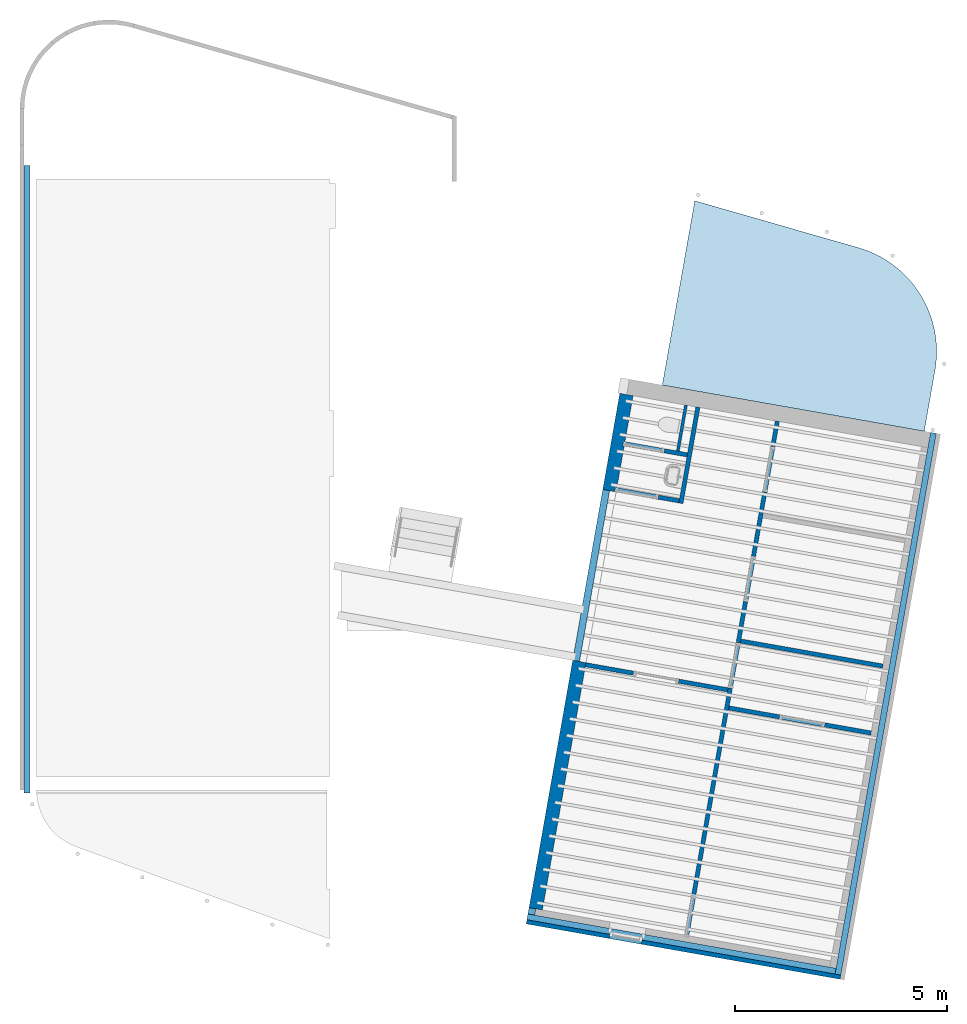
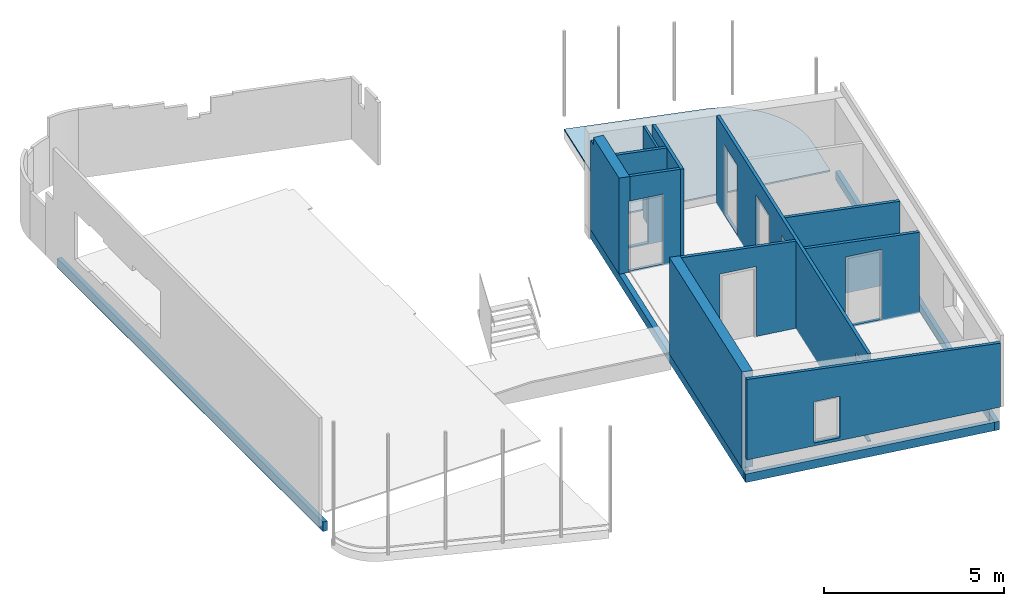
# One storey, part 3 of 7: 15 walls, 1 slab, 15 openings.
"""IFC2X3 building model written with IfcOpenShell, lengths in millimetres."""

import ifcopenshell
import ifcopenshell.guid

model = None  # the IFC model being written
_history = None  # IfcOwnerHistory: only IFC2X3 demands one
_inside = {}  # id of a spatial element -> (the spatial element, [elements in it])
_under = {}  # id of a project, library or spatial element -> (it, [spatial elements below it])
_declared = {}  # id of a project -> (the project, [libraries it declares])
_typed = {}  # id of a type object -> (the type object, [elements of that type])
_made_of = {}  # id of a material, layer set ... -> (it, [elements and type objects made of it])


def new_model(schema):
    """Start an empty IFC model of exactly this schema.

    Asked for "IFC4X3", IfcOpenShell would pick the latest addendum, in which some entities
    have other attributes; the version numbers below select the first issue.
    IFC2X3 requires an IfcOwnerHistory on every rooted entity: one is made here for all.
    """
    global model, _history
    if schema == "IFC4X3":
        model = ifcopenshell.file(schema_version=(4, 3, 0, 0))
    else:
        model = ifcopenshell.file(schema=schema)
    _inside.clear()
    _under.clear()
    _declared.clear()
    _typed.clear()
    _made_of.clear()
    _history = None
    if model.schema == "IFC2X3":
        org = make("IfcOrganization", Name="unknown")
        user = make(
            "IfcPersonAndOrganization",
            ThePerson=make("IfcPerson", FamilyName="unknown"),
            TheOrganization=org,
        )
        app = make(
            "IfcApplication",
            ApplicationDeveloper=org,
            Version="unknown",
            ApplicationFullName="unknown",
            ApplicationIdentifier="unknown",
        )
        _history = make(
            "IfcOwnerHistory",
            OwningUser=user,
            OwningApplication=app,
            ChangeAction="ADDED",
            CreationDate=0,
        )
    return model


def make(cls, **values):
    """One entity of the class cls with the attributes given. An attribute that is None is left unset."""
    return model.create_entity(
        cls, **{name: value for name, value in values.items() if value is not None}
    )


def entity(cls, *values):
    """Any entity or typed value of the class cls, its attributes in the order of the schema. None: left unset."""
    e = model.create_entity(cls)
    for i, value in enumerate(values):
        if value is not None:
            e[i] = value
    return e


def rooted(cls, **values):
    """An entity with a GlobalId (a new one), such as an element, a storey or a relation."""
    return make(cls, GlobalId=ifcopenshell.guid.new(), OwnerHistory=_history, **values)


def si_unit(unit_type, name, prefix=None):
    """IfcSIUnit, for example si_unit("LENGTHUNIT", "METRE", prefix="MILLI")."""
    return make("IfcSIUnit", UnitType=unit_type, Prefix=prefix, Name=name)


def converted_unit(unit_type, name, factor, base, dimensions=None, offset=None):
    """IfcConversionBasedUnit, such as the inch: factor (a typed value) times the base unit."""
    return make(
        "IfcConversionBasedUnit"
        if offset is None
        else "IfcConversionBasedUnitWithOffset",
        ConversionOffset=offset,
        Dimensions=None
        if dimensions is None
        else entity("IfcDimensionalExponents", *dimensions),
        UnitType=unit_type,
        Name=name,
        ConversionFactor=make(
            "IfcMeasureWithUnit", ValueComponent=factor, UnitComponent=base
        ),
    )


def derived_unit(unit_type, elements):
    """IfcDerivedUnit: a product of units, each with its exponent."""
    return make(
        "IfcDerivedUnit",
        Elements=[
            make("IfcDerivedUnitElement", Unit=unit, Exponent=power)
            for unit, power in elements
        ],
        UnitType=unit_type,
    )


def assignment(units):
    """IfcUnitAssignment: the units of a project."""
    return None if units is None else make("IfcUnitAssignment", Units=units)


def point(xyz):
    """IfcCartesianPoint."""
    return None if xyz is None else make("IfcCartesianPoint", Coordinates=xyz)


def direction(xyz):
    """IfcDirection."""
    return None if xyz is None else make("IfcDirection", DirectionRatios=xyz)


def frame(location, z_axis=None, x_axis=None):
    """IfcAxis2Placement3D, a coordinate frame: its origin and axes. An axis left out is left unset."""
    return make(
        "IfcAxis2Placement3D",
        Location=point(location),
        Axis=direction(z_axis),
        RefDirection=direction(x_axis),
    )


def frame_2d(location, x_axis=None):
    """IfcAxis2Placement2D, a coordinate frame in the plane: its origin and x axis."""
    return make(
        "IfcAxis2Placement2D", Location=point(location), RefDirection=direction(x_axis)
    )


def origin():
    """The frame at (0, 0, 0) with its axes left unset."""
    return frame((0.0, 0.0, 0.0))


def place(relative_to, where):
    """IfcLocalPlacement: puts the frame where relative to a parent placement (None: the world)."""
    return make(
        "IfcLocalPlacement", PlacementRelTo=relative_to, RelativePlacement=where
    )


def context(
    kind, dimensions, precision=None, world=None, true_north=None, identifier=None
):
    """IfcGeometricRepresentationContext, for example the 3D "Model" context."""
    return make(
        "IfcGeometricRepresentationContext",
        ContextIdentifier=identifier,
        ContextType=kind,
        CoordinateSpaceDimension=dimensions,
        Precision=precision,
        WorldCoordinateSystem=world,
        TrueNorth=true_north,
    )


def subcontext(parent, identifier, kind, view, scale=None):
    """IfcGeometricRepresentationSubContext, for example "Body" below "Model"."""
    return make(
        "IfcGeometricRepresentationSubContext",
        ContextIdentifier=identifier,
        ContextType=kind,
        ParentContext=parent,
        TargetScale=scale,
        TargetView=view,
    )


def project(units=None, contexts=None):
    """IfcProject with its units and contexts."""
    return rooted(
        "IfcProject",
        Name="project",
        RepresentationContexts=contexts,
        UnitsInContext=assignment(units),
    )


def spatial(cls, under=None, at=None, **own):
    """A site, building, storey or space (cls), placed at a placement, below another one or the project."""
    s = rooted(cls, ObjectPlacement=at, **own)
    if under is not None:
        _under.setdefault(under.id(), (under, []))[1].append(s)
    return s


def polyline(points):
    """IfcPolyline through the points."""
    return make("IfcPolyline", Points=[point(p) for p in points])


def circle_curve(where, radius):
    """IfcCircle in the frame where."""
    return make("IfcCircle", Position=where, Radius=radius)


def parameter(value):
    """IfcParameterValue: where a trimmed curve begins or ends, as a parameter of its basis curve."""
    return model.create_entity("IfcParameterValue", value)


def trimmed(basis, trim1, trim2, sense, master):
    """IfcTrimmedCurve: the piece of a basis curve between two trims."""
    return make(
        "IfcTrimmedCurve",
        BasisCurve=basis,
        Trim1=trim1,
        Trim2=trim2,
        SenseAgreement=sense,
        MasterRepresentation=master,
    )


def segment(curve, same_sense, transition):
    """IfcCompositeCurveSegment."""
    return make(
        "IfcCompositeCurveSegment",
        Transition=transition,
        SameSense=same_sense,
        ParentCurve=curve,
    )


def composite_curve(segments, self_intersect=None):
    """IfcCompositeCurve: segments joined end to end."""
    return make("IfcCompositeCurve", Segments=segments, SelfIntersect=self_intersect)


def profile(cls, at=None, kind="AREA", **sizes):
    """A parametric profile (cls). Its sizes go by their IFC names, for example OverallWidth=200.0."""
    return make(cls, ProfileType=kind, Position=at, **sizes)


def rectangle(**sizes):
    """IfcRectangleProfileDef."""
    return profile("IfcRectangleProfileDef", **sizes)


def outline(outer, holes=None, kind="AREA"):
    """IfcArbitraryClosedProfileDef: a profile drawn as a closed curve; with holes, ...WithVoids."""
    if holes is None:
        return make("IfcArbitraryClosedProfileDef", ProfileType=kind, OuterCurve=outer)
    return make(
        "IfcArbitraryProfileDefWithVoids",
        ProfileType=kind,
        OuterCurve=outer,
        InnerCurves=holes,
    )


def extrude(swept, where, along, depth):
    """IfcExtrudedAreaSolid: the profile swept, set in the frame where, extruded along a direction by depth."""
    return make(
        "IfcExtrudedAreaSolid",
        SweptArea=swept,
        Position=where,
        ExtrudedDirection=direction(along),
        Depth=depth,
    )


def clip(a, b, op="DIFFERENCE"):
    """IfcBooleanClippingResult: the solid a cut by the half space b."""
    return make(
        "IfcBooleanClippingResult", Operator=op, FirstOperand=a, SecondOperand=b
    )


def halfspace(plane, agree):
    """IfcHalfSpaceSolid: all space on one side of the plane z = 0 of the frame plane."""
    return make(
        "IfcHalfSpaceSolid",
        BaseSurface=make("IfcPlane", Position=plane),
        AgreementFlag=agree,
    )


def bounded_halfspace(plane, agree, where, boundary):
    """IfcPolygonalBoundedHalfSpace: a half space limited to a polygon's prism."""
    return make(
        "IfcPolygonalBoundedHalfSpace",
        BaseSurface=make("IfcPlane", Position=plane),
        AgreementFlag=agree,
        Position=where,
        PolygonalBoundary=boundary,
    )


def shape(context_of_items, identifier, shape_type, items):
    """IfcShapeRepresentation: the items that make up one representation, for example the "Body"."""
    return make(
        "IfcShapeRepresentation",
        ContextOfItems=context_of_items,
        RepresentationIdentifier=identifier,
        RepresentationType=shape_type,
        Items=items,
    )


def material(Name=None, Category=None):
    """IfcMaterial."""
    return make("IfcMaterial", Name=Name, Category=Category)


def layer(
    of_material, thickness, ventilated=None, Name=None, Category=None, Priority=None
):
    """IfcMaterialLayer: one layer of a wall or slab, of a material (None: an air gap)."""
    return make(
        "IfcMaterialLayer",
        Material=of_material,
        LayerThickness=thickness,
        IsVentilated=ventilated,
        Name=Name,
        Category=Category,
        Priority=Priority,
    )


def layer_set(layers, Name=None):
    """IfcMaterialLayerSet."""
    return make("IfcMaterialLayerSet", MaterialLayers=layers, LayerSetName=Name)


def layer_usage(for_layer_set, set_direction, sense, offset, extent=None):
    """IfcMaterialLayerSetUsage: how a layer set lies in its element."""
    return make(
        "IfcMaterialLayerSetUsage",
        ForLayerSet=for_layer_set,
        LayerSetDirection=set_direction,
        DirectionSense=sense,
        OffsetFromReferenceLine=offset,
        ReferenceExtent=extent,
    )


def made_of(thing, what):
    """Note that an element or type object is made of a material, layer set ...; save() writes the relation."""
    if what is not None:
        _made_of.setdefault(what.id(), (what, []))[1].append(thing)
    return thing


def type_object(cls, material=None, **own):
    """A type object (cls), such as IfcWallType, which elements share."""
    return made_of(rooted(cls, **own), material)


def element(
    cls,
    number,
    at=None,
    inside=None,
    cuts=None,
    type_object=None,
    material=None,
    context=None,
    identifier="Body",
    shape_type=None,
    held_by="IfcProductDefinitionShape",
    body=None,
    shapes=None,
    **own,
):
    """One element of the class cls, such as IfcWall. Its Tag is "e" and its number.

    at: its placement. inside: the storey or other place that contains it. cuts: it is an
    opening in that element (IfcRelVoidsElement). A single representation is given by context,
    identifier, shape_type and body (its items); several are given by shapes. held_by: the class
    of the entity that holds the representations. save() writes the other relations.
    """
    e = rooted(cls, Tag="e%d" % number, ObjectPlacement=at, **own)
    if body is not None:
        shapes = [shape(context, identifier, shape_type, body)]
    if shapes is not None:
        e.Representation = make(held_by, Representations=shapes)
    if inside is not None:
        _inside.setdefault(inside.id(), (inside, []))[1].append(e)
    if cuts is not None:
        rooted(
            "IfcRelVoidsElement", RelatingBuildingElement=cuts, RelatedOpeningElement=e
        )
    if type_object is not None:
        _typed.setdefault(type_object.id(), (type_object, []))[1].append(e)
    return made_of(e, material)


def aggregate(whole, parts):
    """IfcRelAggregates: a whole, such as a stair, and the parts it consists of."""
    return rooted("IfcRelAggregates", RelatingObject=whole, RelatedObjects=parts)


def save(model, path):
    """Write the relations noted so far, then the file.

    IfcRelAggregates (storeys below a building ...), IfcRelContainedInSpatialStructure (elements
    in a storey), IfcRelDefinesByType, IfcRelAssociatesMaterial and IfcRelDeclares: one each for
    every whole, place, type object, material and project.
    """
    for whole, parts in _under.values():
        aggregate(whole, parts)
    for where, things in _inside.values():
        rooted(
            "IfcRelContainedInSpatialStructure",
            RelatedElements=things,
            RelatingStructure=where,
        )
    for kind, things in _typed.values():
        rooted("IfcRelDefinesByType", RelatedObjects=things, RelatingType=kind)
    for what, things in _made_of.values():
        rooted("IfcRelAssociatesMaterial", RelatedObjects=things, RelatingMaterial=what)
    for by, libraries in _declared.values():
        rooted("IfcRelDeclares", RelatingContext=by, RelatedDefinitions=libraries)
    model.write(path)


model = new_model("IFC2X3")

# Units and contexts
model_context = context("Model", 3, precision=0.01, world=origin(), true_north=direction((6.12303176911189e-17, 1.0)))
body_context = subcontext(model_context, "Body", "Model", "MODEL_VIEW")
ifc_project = project(units=[si_unit("LENGTHUNIT", "METRE", prefix="MILLI"), si_unit("AREAUNIT", "SQUARE_METRE"), si_unit("VOLUMEUNIT", "CUBIC_METRE"), converted_unit("PLANEANGLEUNIT", "DEGREE", entity("IfcRatioMeasure", 0.0174532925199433), si_unit("PLANEANGLEUNIT", "RADIAN"), dimensions=[0, 0, 0, 0, 0, 0, 0]), si_unit("MASSUNIT", "GRAM", prefix="KILO"), derived_unit("MASSDENSITYUNIT", [(si_unit("MASSUNIT", "GRAM", prefix="KILO"), 1), (si_unit("LENGTHUNIT", "METRE"), -3)]), si_unit("TIMEUNIT", "SECOND"), si_unit("FREQUENCYUNIT", "HERTZ"), si_unit("THERMODYNAMICTEMPERATUREUNIT", "DEGREE_CELSIUS"), derived_unit("THERMALTRANSMITTANCEUNIT", [(si_unit("MASSUNIT", "GRAM", prefix="KILO"), 1), (si_unit("THERMODYNAMICTEMPERATUREUNIT", "KELVIN"), -1), (si_unit("TIMEUNIT", "SECOND"), -3)]), derived_unit("VOLUMETRICFLOWRATEUNIT", [(si_unit("LENGTHUNIT", "METRE"), 3), (si_unit("TIMEUNIT", "SECOND"), -1)]), si_unit("ELECTRICCURRENTUNIT", "AMPERE"), si_unit("ELECTRICVOLTAGEUNIT", "VOLT"), si_unit("POWERUNIT", "WATT"), si_unit("FORCEUNIT", "NEWTON", prefix="KILO"), si_unit("ILLUMINANCEUNIT", "LUX"), si_unit("LUMINOUSFLUXUNIT", "LUMEN"), si_unit("LUMINOUSINTENSITYUNIT", "CANDELA"), derived_unit("USERDEFINED", [(si_unit("MASSUNIT", "GRAM", prefix="KILO"), -1), (si_unit("LENGTHUNIT", "METRE"), -2), (si_unit("TIMEUNIT", "SECOND"), 3), (si_unit("LUMINOUSFLUXUNIT", "LUMEN"), 1)]), derived_unit("LINEARVELOCITYUNIT", [(si_unit("LENGTHUNIT", "METRE"), 1), (si_unit("TIMEUNIT", "SECOND"), -1)]), si_unit("PRESSUREUNIT", "PASCAL"), derived_unit("USERDEFINED", [(si_unit("LENGTHUNIT", "METRE"), -2), (si_unit("MASSUNIT", "GRAM", prefix="KILO"), 1), (si_unit("TIMEUNIT", "SECOND"), -2)])], contexts=[model_context])

# Site, building, storey
site_placement = place(None, origin())
site = spatial("IfcSite", under=ifc_project, at=site_placement, Name="<Kadaster Gemeente>;<Kadaster nummer>;<Kadaster sectie>", CompositionType="ELEMENT")
building_placement = place(site_placement, origin())
building = spatial("IfcBuilding", under=site, at=building_placement, Name="JRCZ Middelburg", CompositionType="ELEMENT")
storey_placement = place(building_placement, frame((0.0, 0.0, 3000.0)))
storey = spatial("IfcBuildingStorey", under=building, at=storey_placement, Name="01 eerste verdieping", CompositionType="ELEMENT", Elevation=3000.0)

# Slab
ifc_material_1 = material(Name="RBM_n7_dakisolatie_gen")
ifc_layer_1 = layer(ifc_material_1, 50.0)
ifc_layer_set_1 = layer_set([ifc_layer_1], Name="Floor:RBM_23_FL_dakisolatie 30 mm")
ifc_layer_usage_1 = layer_usage(ifc_layer_set_1, "AXIS3", "POSITIVE", 0.0)
slab_type = type_object("IfcSlabType", Name="Floor:RBM_23_FL_dakisolatie 30 mm", PredefinedType="FLOOR", material=ifc_layer_set_1)
slab_placement = place(storey_placement, origin())
element("IfcSlab", 1, at=slab_placement, inside=storey, type_object=slab_type, material=ifc_layer_usage_1, Name="Floor:RBM_23_FL_dakisolatie 30 mm", ObjectType="Floor:RBM_23_FL_dakisolatie 30 mm", PredefinedType="FLOOR", context=body_context, shape_type="SweptSolid", body=[
    extrude(outline(composite_curve([segment(polyline([(-3539.93236638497, -2078.31776464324), (467.699555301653, -2078.31776464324)]), True, "CONTINUOUS"), segment(trimmed(circle_curve(frame_2d((467.699555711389, 467.520460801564), x_axis=(0.0, -1.0)), 2545.8382254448), [parameter(0.0)], [parameter(83.9999999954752)], True, "PARAMETER"), True, "CONTINUOUS"), segment(polyline([(2999.59141291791, 201.407902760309), (3151.86111275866, 1650.15732013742)]), True, "CONTINUOUS"), segment(polyline([(3151.86111275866, 1650.15732013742), (-3079.21971459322, 2305.07030638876)]), True, "CONTINUOUS"), segment(polyline([(-3079.21971459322, 2305.07030638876), (-3539.93236638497, -2078.31776464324)]), True, "CONTINUOUS")], self_intersect=False)), frame((28484.4381831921, 20752.4424820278, 15.0), z_axis=(0.0, 0.0, -1.0), x_axis=(0.961261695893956, -0.275637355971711, 0.0)), (0.0, 0.0, 1.0), 50.0),
])

# Wall, openings
ifc_material_2 = material(Name="RBM_f7_gips_beplating wand")
ifc_layer_2 = layer(ifc_material_2, 12.5)
ifc_material_3 = material(Name="RBM_i4_multiplex_beplating")
ifc_layer_3 = layer(ifc_material_3, 18.0)
ifc_material_4 = material(Name="isolatie_steenwol_hsb_270")
ifc_layer_4 = layer(ifc_material_4, 270.0)
ifc_layer_5 = layer(ifc_material_3, 18.0)
ifc_layer_set_2 = layer_set([ifc_layer_2, ifc_layer_3, ifc_layer_4, ifc_layer_5], Name="Basic Wall:22_hsb_binnenwand_gips_318,5mm")
ifc_layer_usage_2 = layer_usage(ifc_layer_set_2, "AXIS2", "NEGATIVE", 159.25)
wall_type_1 = type_object("IfcWallType", Name="Basic Wall:22_hsb_binnenwand_gips_318,5mm", PredefinedType="STANDARD", material=ifc_layer_set_2)
wall_1_placement = place(storey_placement, frame((21908.3733252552, 7049.61056927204, -45.0), z_axis=(0.0, 0.0, 1.0), x_axis=(0.17364817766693, 0.984807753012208, 0.0)))
wall_1 = element("IfcWallStandardCase", 2, at=wall_1_placement, inside=storey, type_object=wall_type_1, material=ifc_layer_usage_2, Name="Basic Wall:22_hsb_binnenwand_gips_318,5mm", ObjectType="Basic Wall:22_hsb_binnenwand_gips_318,5mm", context=body_context, shape_type="Clipping", body=[
    clip(extrude(rectangle(XDim=5915.99999999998, YDim=318.5, at=frame_2d((2957.99999999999, 7.8159700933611e-13), x_axis=(-1.0, 0.0))), origin(), (0.0, 0.0, 1.0), 3276.7387620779), bounded_halfspace(frame((0.0, -159.250000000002, 3252.85126207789), z_axis=(0.0, 0.0747899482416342, -0.997199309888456), x_axis=(0.0, 0.997199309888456, 0.0747899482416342)), True, frame((0.0, -159.250000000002, 3252.85126207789)), polyline([(0.0, 0.0), (5816.0, 0.0), (5916.0, 0.0), (5916.0, 318.500000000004), (0.0, 318.500000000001), (0.0, 0.0)]))),
])
opening_1_placement = place(wall_1_placement, origin())
element("IfcOpeningElement", 3, at=opening_1_placement, cuts=wall_1, Name="Basic Wall:22_hsb_binnenwand_gips_318,5mm", ObjectType="Opening", context=body_context, shape_type="SweptSolid", body=[
    extrude(rectangle(XDim=2377.0, YDim=100.0, at=frame_2d((-1.442401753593e-12, 0.0), x_axis=(0.0, 1.0))), frame((10050.0, -1161.25000000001, 1233.5), z_axis=(0.0, 1.0, 0.0), x_axis=(1.0, 0.0, 0.0)), (0.0, 0.0, 1.0), 1034.0),
])
opening_2_placement = place(wall_1_placement, origin())
element("IfcOpeningElement", 4, at=opening_2_placement, cuts=wall_1, Name="Basic Wall:22_hsb_binnenwand_gips_318,5mm", ObjectType="Opening", context=body_context, shape_type="SweptSolid", body=[
    extrude(rectangle(XDim=2377.0, YDim=100.0, at=frame_2d((1.442401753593e-12, 0.0), x_axis=(0.0, 1.0))), frame((11150.0, -1111.25, 1233.5), z_axis=(0.0, 1.0, 0.0), x_axis=(1.0, 0.0, 0.0)), (0.0, 0.0, 1.0), 984.000000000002),
])

ifc_layer_usage_3 = layer_usage(ifc_layer_set_2, "AXIS2", "NEGATIVE", 159.25)
wall_2_placement = place(storey_placement, frame((23644.8551019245, 16897.6880993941, -35.0), z_axis=(0.0, 0.0, 1.0), x_axis=(0.173648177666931, 0.984807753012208, 0.0)))
wall_2 = element("IfcWallStandardCase", 5, at=wall_2_placement, inside=storey, type_object=wall_type_1, material=ifc_layer_usage_3, Name="Basic Wall:22_hsb_binnenwand_gips_318,5mm", ObjectType="Basic Wall:22_hsb_binnenwand_gips_318,5mm", context=body_context, shape_type="Clipping", body=[
    clip(clip(extrude(rectangle(XDim=2300.00000000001, YDim=318.5, at=frame_2d((1150.00000000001, -1.12265752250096e-12), x_axis=(-1.0, 0.0))), origin(), (0.0, 0.0, 1.0), 3266.7387620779), bounded_halfspace(frame((0.0, 159.249999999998, 3266.7387620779), z_axis=(0.0, 0.0747899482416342, -0.997199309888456), x_axis=(0.0, 0.997199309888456, 0.0747899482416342)), True, frame((0.0, 159.249999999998, 3266.7387620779)), polyline([(0.0, 0.0), (0.0, -318.500000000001), (100.0, -318.500000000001), (1100.0, -318.500000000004), (1200.0, -318.500000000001), (2146.5766962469, -318.499999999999), (2131.40141689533, -232.436714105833), (2090.41655289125, 0.0), (0.0, 0.0)]))), bounded_halfspace(frame((2146.57669624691, -159.250000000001, 3035.0), z_axis=(0.0, 0.0, 1.0), x_axis=(0.0, 1.0, 0.0)), False, frame((2146.57669624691, -159.250000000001, 3035.0)), polyline([(0.0, 0.0), (153.423303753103, 0.0), (153.423303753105, 318.500000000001), (-56.1601433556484, 318.500000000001), (0.0, 0.0)]))),
])
opening_3_placement = place(wall_2_placement, origin())
element("IfcOpeningElement", 6, at=opening_3_placement, cuts=wall_2, Name="Basic Wall:22_hsb_binnenwand_gips_318,5mm", ObjectType="Opening", context=body_context, shape_type="SweptSolid", body=[
    extrude(rectangle(XDim=2377.0, YDim=100.0, at=frame_2d((-1.442401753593e-12, 0.0), x_axis=(0.0, 1.0))), frame((50.0, -1161.25000000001, 1223.5), z_axis=(0.0, 1.0, 0.0), x_axis=(1.0, 0.0, 0.0)), (0.0, 0.0, 1.0), 1034.0),
])
opening_4_placement = place(wall_2_placement, origin())
element("IfcOpeningElement", 7, at=opening_4_placement, cuts=wall_2, Name="Basic Wall:22_hsb_binnenwand_gips_318,5mm", ObjectType="Opening", context=body_context, shape_type="SweptSolid", body=[
    extrude(rectangle(XDim=2377.0, YDim=100.0, at=frame_2d((1.442401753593e-12, 0.0), x_axis=(0.0, 1.0))), frame((1150.0, -1111.25, 1223.5), z_axis=(0.0, 1.0, 0.0), x_axis=(1.0, 0.0, 0.0)), (0.0, 0.0, 1.0), 984.000000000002),
])

ifc_material_5 = material(Name="RBM_a_metalstudwand")
ifc_layer_6 = layer(ifc_material_5, 100.0)
ifc_layer_set_3 = layer_set([ifc_layer_6], Name="Basic Wall:WA_22_metalstud_binnenwand_100mm")
ifc_layer_usage_4 = layer_usage(ifc_layer_set_3, "AXIS2", "NEGATIVE", 50.0)
wall_type_2 = type_object("IfcWallType", Name="Basic Wall:WA_22_metalstud_binnenwand_100mm", PredefinedType="STANDARD", material=ifc_layer_set_3)
wall_3_placement = place(storey_placement, frame((25462.7907078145, 6422.87088402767, -35.0), z_axis=(0.0, 0.0, 1.0), x_axis=(0.17364817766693, 0.984807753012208, 0.0)))
wall_3 = element("IfcWallStandardCase", 8, at=wall_3_placement, inside=storey, type_object=wall_type_2, material=ifc_layer_usage_4, Name="Basic Wall:WA_22_metalstud_binnenwand_100mm", ObjectType="Basic Wall:WA_22_metalstud_binnenwand_100mm", context=body_context, shape_type="Clipping", body=[
    clip(extrude(rectangle(XDim=12300.0, YDim=99.9999999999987, at=frame_2d((6149.99999999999, -1.19726450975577e-12), x_axis=(-1.0, 0.0))), origin(), (0.0, 0.0, 1.0), 2987.8512620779), bounded_halfspace(frame((0.0, -50.0, 2980.3512620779), z_axis=(0.0, 0.0747899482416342, -0.997199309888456), x_axis=(0.0, 0.997199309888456, 0.0747899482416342)), True, frame((0.0, -50.0, 2980.3512620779)), polyline([(0.0, 0.0), (5400.0, 0.0), (5500.0, 0.0), (7000.0, 0.0), (7100.0, 0.0), (10000.0, 0.0), (10100.0, 0.0), (12300.0, 0.0), (12300.0, 100.0), (5916.0, 100.0), (5816.0, 100.0), (0.0, 100.0), (0.0, 0.0)]))),
])
opening_5_placement = place(wall_3_placement, origin())
element("IfcOpeningElement", 9, at=opening_5_placement, cuts=wall_3, Name="Basic Wall:WA_22_metalstud_binnenwand_100mm", ObjectType="Opening", context=body_context, shape_type="SweptSolid", body=[
    extrude(rectangle(XDim=2377.0, YDim=100.0, at=frame_2d((1.442401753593e-12, 4.54747350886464e-13), x_axis=(0.0, 1.0))), frame((5866.0, 1224.0, 1223.5), z_axis=(0.0, 1.0, 0.0), x_axis=(-1.0, 0.0, 0.0)), (0.0, 0.0, 1.0), 1084.0),
])
opening_6_placement = place(wall_3_placement, origin())
element("IfcOpeningElement", 10, at=opening_6_placement, cuts=wall_3, Name="Basic Wall:WA_22_metalstud_binnenwand_100mm", ObjectType="Opening", context=body_context, shape_type="SweptSolid", body=[
    extrude(rectangle(XDim=2377.0, YDim=100.0, at=frame_2d((1.442401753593e-12, 4.54747350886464e-13), x_axis=(0.0, 1.0))), frame((5450.0, -2342.0, 1223.5), z_axis=(0.0, 1.0, 0.0), x_axis=(-1.0, 0.0, 0.0)), (0.0, 0.0, 1.0), 1083.99999999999),
])
opening_7_placement = place(wall_3_placement, frame((-10746.8602479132, 23960.6338779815, 35.0), z_axis=(0.0, 0.0, 1.0), x_axis=(0.17364817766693, -0.984807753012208, 0.0)))
element("IfcOpeningElement", 11, at=opening_7_placement, cuts=wall_3, Name="Basic Wall:WA_22_metalstud_binnenwand_100mm", ObjectType="Opening", context=body_context, shape_type="SweptSolid", body=[
    extrude(rectangle(XDim=2377.0, YDim=984.0, at=frame_2d((0.0, 4.54747350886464e-13), x_axis=(0.0, 1.0))), frame((27092.4089764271, 6600.59060325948, 1188.5), z_axis=(-0.984807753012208, 0.173648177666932, 0.0), x_axis=(-0.173648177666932, -0.984807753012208, 0.0)), (0.0, 0.0, 1.0), 3048.0),
])
opening_8_placement = place(wall_3_placement, frame((-10746.8602479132, 23960.6338779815, 35.0), z_axis=(0.0, 0.0, 1.0), x_axis=(0.17364817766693, -0.984807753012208, 0.0)))
element("IfcOpeningElement", 12, at=opening_8_placement, cuts=wall_3, Name="Basic Wall:WA_22_metalstud_binnenwand_100mm", ObjectType="Opening", context=body_context, shape_type="SweptSolid", body=[
    extrude(rectangle(XDim=2377.0, YDim=1084.0, at=frame_2d((1.4210854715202e-12, 4.54747350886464e-13), x_axis=(0.0, 1.0))), frame((28134.2980424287, 12509.4371213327, 1188.5), z_axis=(-0.984807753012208, 0.17364817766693, 0.0), x_axis=(-0.17364817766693, -0.984807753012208, 0.0)), (0.0, 0.0, 1.0), 3048.0),
])
opening_9_placement = place(wall_3_placement, frame((-10746.8602479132, 23960.6338779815, 35.0), z_axis=(0.0, 0.0, 1.0), x_axis=(0.17364817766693, -0.984807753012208, 0.0)))
element("IfcOpeningElement", 13, at=opening_9_placement, cuts=wall_3, Name="Basic Wall:WA_22_metalstud_binnenwand_100mm", ObjectType="Opening", context=body_context, shape_type="SweptSolid", body=[
    extrude(rectangle(XDim=2377.0, YDim=1084.0, at=frame_2d((0.0, 1.4210854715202e-12), x_axis=(1.0, 0.0))), frame((28493.7497701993, 14547.989170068, 1188.5), z_axis=(-0.984807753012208, 0.17364817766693, 0.0), x_axis=(0.0, 0.0, 1.0)), (0.0, 0.0, 1.0), 3048.0),
])
opening_10_placement = place(wall_3_placement, frame((-10746.8602479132, 23960.6338779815, 35.0), z_axis=(0.0, 0.0, 1.0), x_axis=(0.17364817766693, -0.984807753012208, 0.0)))
element("IfcOpeningElement", 14, at=opening_10_placement, cuts=wall_3, Name="Basic Wall:WA_22_metalstud_binnenwand_100mm", ObjectType="Opening", context=body_context, shape_type="SweptSolid", body=[
    extrude(rectangle(XDim=2377.0, YDim=1084.0, at=frame_2d((0.0, -1.4210854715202e-12), x_axis=(1.0, 0.0))), frame((28949.055292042, 17130.155098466, 1188.5), z_axis=(-0.984807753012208, 0.17364817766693, 0.0), x_axis=(0.0, 0.0, 1.0)), (0.0, 0.0, 1.0), 3048.0),
])

# Wall, opening
ifc_layer_usage_5 = layer_usage(ifc_layer_set_3, "AXIS2", "NEGATIVE", 50.0)
wall_4_placement = place(storey_placement, frame((23083.8241701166, 12798.8393761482, 0.0), z_axis=(0.0, 0.0, 1.0), x_axis=(0.984807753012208, -0.173648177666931, 0.0)))
wall_4 = element("IfcWallStandardCase", 15, at=wall_4_placement, inside=storey, type_object=wall_type_2, material=ifc_layer_usage_5, Name="Basic Wall:WA_22_metalstud_binnenwand_100mm", ObjectType="Basic Wall:WA_22_metalstud_binnenwand_100mm", context=body_context, shape_type="Clipping", body=[
    clip(extrude(rectangle(XDim=3400.00000000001, YDim=99.9999999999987, at=frame_2d((1700.0, -7.105427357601e-14), x_axis=(-1.0, 0.0))), origin(), (0.0, 0.0, 1.0), 3207.8512620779), bounded_halfspace(frame((0.0, -50.0, 3207.8512620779), z_axis=(-0.0747899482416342, 0.0, -0.997199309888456), x_axis=(-0.997199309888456, 0.0, 0.0747899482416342)), True, frame((0.0, -50.0, 3207.8512620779)), polyline([(0.0, 0.0), (3400.0, 0.0), (3400.0, 100.0), (0.0, 100.0), (0.0, 0.0)]))),
])
opening_11_placement = place(wall_4_placement, frame((-20510.6338779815, -16612.8602479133, 0.0), z_axis=(0.0, 0.0, 1.0), x_axis=(0.984807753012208, 0.173648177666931, 0.0)))
element("IfcOpeningElement", 16, at=opening_11_placement, cuts=wall_4, Name="Basic Wall:WA_22_metalstud_binnenwand_100mm", ObjectType="Opening", context=body_context, shape_type="SweptSolid", body=[
    extrude(rectangle(XDim=2377.0, YDim=1084.0, at=frame_2d((0.0, -2.1600499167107e-12), x_axis=(1.0, 0.0))), frame((24468.9181945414, 10956.3284417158, 1188.5), z_axis=(0.173648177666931, 0.984807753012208, 0.0), x_axis=(0.0, 0.0, 1.0)), (0.0, 0.0, 1.0), 3048.0),
])

ifc_layer_usage_6 = layer_usage(ifc_layer_set_3, "AXIS2", "NEGATIVE", 50.0)
wall_5_placement = place(storey_placement, frame((26458.4136637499, 11781.3907290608, -45.0), z_axis=(0.0, 0.0, 1.0), x_axis=(0.984807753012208, -0.173648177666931, 0.0)))
wall_5 = element("IfcWallStandardCase", 17, at=wall_5_placement, inside=storey, type_object=wall_type_2, material=ifc_layer_usage_6, Name="Basic Wall:WA_22_metalstud_binnenwand_100mm", ObjectType="Basic Wall:WA_22_metalstud_binnenwand_100mm", context=body_context, shape_type="Clipping", body=[
    clip(extrude(rectangle(XDim=3400.00000000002, YDim=99.9999999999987, at=frame_2d((1700.00000000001, 3.33955085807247e-13), x_axis=(-1.0, 0.0))), origin(), (0.0, 0.0, 1.0), 2990.3512620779), bounded_halfspace(frame((0.0, -50.0, 2990.3512620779), z_axis=(-0.0747899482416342, 0.0, -0.997199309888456), x_axis=(-0.997199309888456, 0.0, 0.0747899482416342)), True, frame((0.0, -50.0, 2990.3512620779)), polyline([(0.0, 0.0), (3400.0, 0.0), (3400.0, 100.0), (0.0, 100.0), (0.0, 0.0)]))),
])
opening_12_placement = place(wall_5_placement, frame((-24010.6338779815, -16196.8602479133, 45.0), z_axis=(0.0, 0.0, 1.0), x_axis=(0.984807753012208, 0.173648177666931, 0.0)))
element("IfcOpeningElement", 18, at=opening_12_placement, cuts=wall_5, Name="Basic Wall:WA_22_metalstud_binnenwand_100mm", ObjectType="Opening", context=body_context, shape_type="SweptSolid", body=[
    extrude(rectangle(XDim=2377.0, YDim=1084.0, at=frame_2d((0.0, -2.1600499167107e-12), x_axis=(1.0, 0.0))), frame((27908.5049998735, 9927.41901490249, 1188.5), z_axis=(0.173648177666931, 0.984807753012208, 0.0), x_axis=(0.0, 0.0, 1.0)), (0.0, 0.0, 1.0), 3048.0),
])

# Walls
ifc_layer_usage_7 = layer_usage(ifc_layer_set_3, "AXIS2", "NEGATIVE", 50.0)
wall_6_placement = place(storey_placement, frame((26736.2507480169, 13357.0831338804, -45.0), z_axis=(0.0, 0.0, 1.0), x_axis=(0.984807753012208, -0.17364817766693, 0.0)))
element("IfcWallStandardCase", 19, at=wall_6_placement, inside=storey, type_object=wall_type_2, material=ifc_layer_usage_7, Name="Basic Wall:WA_22_metalstud_binnenwand_100mm", ObjectType="Basic Wall:WA_22_metalstud_binnenwand_100mm", context=body_context, shape_type="Clipping", body=[
    clip(extrude(rectangle(XDim=3400.00000000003, YDim=99.9999999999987, at=frame_2d((1700.00000000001, -2.70006239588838e-13), x_axis=(-1.0, 0.0))), origin(), (0.0, 0.0, 1.0), 2990.3512620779), bounded_halfspace(frame((0.0, -50.0, 2990.3512620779), z_axis=(-0.0747899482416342, 0.0, -0.997199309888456), x_axis=(-0.997199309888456, 0.0, 0.0747899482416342)), True, frame((0.0, -50.0, 2990.3512620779)), polyline([(0.0, 0.0), (3400.0, 0.0), (3400.0, 100.0), (0.0, 100.0), (0.0, 0.0)]))),
])
ifc_layer_usage_8 = layer_usage(ifc_layer_set_3, "AXIS2", "NEGATIVE", 50.0)
wall_7_placement = place(storey_placement, frame((25328.1377537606, 16600.8799517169, -35.0), z_axis=(0.0, 0.0, 1.0), x_axis=(0.17364817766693, 0.984807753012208, 0.0)))
element("IfcWallStandardCase", 20, at=wall_7_placement, inside=storey, type_object=wall_type_2, material=ifc_layer_usage_8, Name="Basic Wall:WA_22_metalstud_binnenwand_100mm", ObjectType="Basic Wall:WA_22_metalstud_binnenwand_100mm", context=body_context, shape_type="Clipping", body=[
    clip(extrude(rectangle(XDim=2299.99999999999, YDim=99.9999999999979, at=frame_2d((1150.0, 8.17124146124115e-14), x_axis=(-1.0, 0.0))), origin(), (0.0, 0.0, 1.0), 3130.3512620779), bounded_halfspace(frame((0.0, -50.0, 3122.8512620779), z_axis=(0.0, 0.0747899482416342, -0.997199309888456), x_axis=(0.0, 0.997199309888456, 0.0747899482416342)), True, frame((0.0, -50.0, 3122.8512620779)), polyline([(0.0, 0.0), (2300.0, 0.0), (2300.0, 100.0), (1200.0, 100.0), (1100.0, 100.0), (100.0, 100.0), (0.0, 100.0), (0.0, 0.0)]))),
])

# Wall, opening
ifc_layer_usage_9 = layer_usage(ifc_layer_set_3, "AXIS2", "NEGATIVE", 50.0)
wall_8_placement = place(storey_placement, frame((25478.5927704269, 17742.0912765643, -45.0), z_axis=(0.0, 0.0, 1.0), x_axis=(-0.984807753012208, 0.173648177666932, 0.0)))
wall_8 = element("IfcWallStandardCase", 21, at=wall_8_placement, inside=storey, type_object=wall_type_2, material=ifc_layer_usage_9, Name="Basic Wall:WA_22_metalstud_binnenwand_100mm", ObjectType="Basic Wall:WA_22_metalstud_binnenwand_100mm", context=body_context, shape_type="Clipping", body=[
    clip(extrude(rectangle(XDim=1500.0, YDim=99.9999999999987, at=frame_2d((749.999999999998, -7.105427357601e-14), x_axis=(-1.0, 0.0))), origin(), (0.0, 0.0, 1.0), 3252.8512620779), bounded_halfspace(frame((0.0, -50.0, 3140.3512620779), z_axis=(0.0747899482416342, 0.0, -0.997199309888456), x_axis=(0.997199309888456, 0.0, 0.0747899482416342)), True, frame((0.0, -50.0, 3140.3512620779)), polyline([(0.0, 0.0), (200.0, 0.0), (270.0, 0.0), (1500.0, 0.0), (1500.0, 100.0), (0.0, 100.0), (0.0, 0.0)]))),
])
opening_13_placement = place(wall_8_placement, frame((22010.6338779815, 21896.8602479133, 45.0), z_axis=(0.0, 0.0, 1.0), x_axis=(-0.984807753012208, -0.173648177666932, 0.0)))
element("IfcOpeningElement", 22, at=opening_13_placement, cuts=wall_8, Name="Basic Wall:WA_22_metalstud_binnenwand_100mm", ObjectType="Opening", context=body_context, shape_type="SweptSolid", body=[
    extrude(rectangle(XDim=2377.0, YDim=984.0, at=frame_2d((0.0, 2.1316282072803e-12), x_axis=(1.0, 0.0))), frame((24727.714938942, 19472.7727845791, 1188.5), z_axis=(-0.173648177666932, -0.984807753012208, 0.0), x_axis=(0.0, 0.0, 1.0)), (0.0, 0.0, 1.0), 3048.0),
])

ifc_layer_usage_10 = layer_usage(ifc_layer_set_3, "AXIS2", "NEGATIVE", 50.0)
wall_9_placement = place(storey_placement, frame((25287.5797749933, 16658.8027482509, -45.0), z_axis=(0.0, 0.0, 1.0), x_axis=(-0.984807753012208, 0.173648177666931, 0.0)))
wall_9 = element("IfcWallStandardCase", 23, at=wall_9_placement, inside=storey, type_object=wall_type_2, material=ifc_layer_usage_10, Name="Basic Wall:WA_22_metalstud_binnenwand_100mm", ObjectType="Basic Wall:WA_22_metalstud_binnenwand_100mm", context=body_context, shape_type="Clipping", body=[
    clip(extrude(rectangle(XDim=1499.99999999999, YDim=99.9999999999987, at=frame_2d((749.999999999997, 5.04485342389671e-13), x_axis=(-1.0, 0.0))), origin(), (0.0, 0.0, 1.0), 3252.8512620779), bounded_halfspace(frame((0.0, -50.0, 3140.3512620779), z_axis=(0.0747899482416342, 0.0, -0.997199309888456), x_axis=(0.997199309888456, 0.0, 0.0747899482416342)), True, frame((0.0, -50.0, 3140.3512620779)), polyline([(0.0, 0.0), (1500.0, 0.0), (1500.0, 100.0), (0.0, 100.0), (0.0, 0.0)]))),
])
opening_14_placement = place(wall_9_placement, frame((22010.6338779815, 20796.8602479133, 45.0), z_axis=(0.0, 0.0, 1.0), x_axis=(-0.984807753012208, -0.173648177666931, 0.0)))
element("IfcOpeningElement", 24, at=opening_14_placement, cuts=wall_9, Name="Basic Wall:WA_22_metalstud_binnenwand_100mm", ObjectType="Opening", context=body_context, shape_type="SweptSolid", body=[
    extrude(rectangle(XDim=2377.0, YDim=1034.0, at=frame_2d((0.0, 2.33058017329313e-12), x_axis=(1.0, 0.0))), frame((24561.3221373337, 18385.143051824, 1188.5), z_axis=(-0.173648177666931, -0.984807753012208, 0.0), x_axis=(0.0, 0.0, 1.0)), (0.0, 0.0, 1.0), 3048.0),
])

# Walls
ifc_layer_7 = layer(ifc_material_2, 12.5)
ifc_material_6 = material(Name="RBM_n7_isolatie_MS45")
ifc_layer_8 = layer(ifc_material_6, 45.0)
ifc_layer_9 = layer(ifc_material_2, 12.5)
ifc_layer_set_4 = layer_set([ifc_layer_7, ifc_layer_8, ifc_layer_9], Name="Basic Wall:22_RBM_WA_metalstud_70_12.5-45-12.5")
ifc_layer_usage_11 = layer_usage(ifc_layer_set_4, "AXIS2", "NEGATIVE", 35.0)
wall_type_3 = type_object("IfcWallType", Name="Basic Wall:22_RBM_WA_metalstud_70_12.5-45-12.5", PredefinedType="STANDARD", material=ifc_layer_set_4)
wall_10_placement = place(storey_placement, frame((25255.8453573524, 17832.1389859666, 0.0), z_axis=(0.0, 0.0, 1.0), x_axis=(0.173648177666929, 0.984807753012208, 0.0)))
element("IfcWallStandardCase", 25, at=wall_10_placement, inside=storey, type_object=wall_type_3, material=ifc_layer_usage_11, Name="Basic Wall:22_RBM_WA_metalstud_70_12.5-45-12.5", ObjectType="Basic Wall:22_RBM_WA_metalstud_70_12.5-45-12.5", context=body_context, shape_type="Clipping", body=[
    clip(extrude(rectangle(XDim=1100.00000000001, YDim=70.000000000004, at=frame_2d((550.000000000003, -1.14752651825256e-12), x_axis=(-1.0, 0.0))), origin(), (0.0, 0.0, 1.0), 3115.6012620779), bounded_halfspace(frame((0.0, -35.0, 3110.3512620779), z_axis=(0.0, 0.0747899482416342, -0.997199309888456), x_axis=(0.0, 0.997199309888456, 0.0747899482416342)), True, frame((0.0, -35.0, 3110.3512620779)), polyline([(0.0, 0.0), (1100.0, 0.0), (1100.0, 70.0), (0.0, 70.0), (0.0, 0.0)]))),
])
ifc_material_7 = material(Name="RBM_n7_isolatie_hsb_invulling")
ifc_layer_10 = layer(ifc_material_7, 138.0)
ifc_layer_set_5 = layer_set([ifc_layer_10], Name="Basic Wall")
ifc_layer_usage_12 = layer_usage(ifc_layer_set_5, "AXIS2", "NEGATIVE", 69.0)
wall_type_4 = type_object("IfcWallType", Name="Basic Wall", PredefinedType="STANDARD", material=ifc_layer_set_5)
wall_11_placement = place(storey_placement, frame((31275.4781719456, 18259.3307198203, -334.0), z_axis=(0.0, 0.0, 1.0), x_axis=(-0.17364817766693, -0.984807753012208, 0.0)))
element("IfcWallStandardCase", 26, at=wall_11_placement, inside=storey, type_object=wall_type_4, material=ifc_layer_usage_12, Name="Basic Wall:", ObjectType="Basic Wall", context=body_context, shape_type="SweptSolid", body=[
    extrude(rectangle(XDim=12954.0, YDim=138.000000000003, at=frame_2d((6476.99999999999, 3.83693077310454e-13), x_axis=(-1.0, 0.0))), origin(), (0.0, 0.0, 1.0), 288.999999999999),
])
ifc_layer_usage_13 = layer_usage(ifc_layer_set_5, "AXIS2", "NEGATIVE", 69.0)
wall_12_placement = place(storey_placement, frame((28970.0696677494, 5582.06454651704, -334.0), z_axis=(0.0, 0.0, 1.0), x_axis=(-0.984807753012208, 0.173648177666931, 0.0)))
element("IfcWallStandardCase", 27, at=wall_12_placement, inside=storey, type_object=wall_type_4, material=ifc_layer_usage_13, Name="Basic Wall:", ObjectType="Basic Wall", context=body_context, shape_type="SweptSolid", body=[
    extrude(rectangle(XDim=138.0, YDim=7368.50000000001, at=frame_2d((-1.98951966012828e-13, -2.08333333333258), x_axis=(1.0, 0.0))), frame((3682.16666666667, 0.0, 0.0), z_axis=(0.0, 0.0, 1.0), x_axis=(0.0, 1.0, 0.0)), (0.0, 0.0, 1.0), 288.999999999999),
])
ifc_layer_usage_14 = layer_usage(ifc_layer_set_5, "AXIS2", "NEGATIVE", 69.0)
wall_13_placement = place(storey_placement, frame((9931.0, 9784.0, 335.0), z_axis=(0.0, 0.0, 1.0), x_axis=(0.0, 1.0, 0.0)))
element("IfcWallStandardCase", 28, at=wall_13_placement, inside=storey, type_object=wall_type_4, material=ifc_layer_usage_14, Name="Basic Wall:", ObjectType="Basic Wall", context=body_context, shape_type="SweptSolid", body=[
    extrude(rectangle(XDim=14772.5, YDim=137.999999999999, at=frame_2d((7386.24999999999, 1.06581410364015e-13), x_axis=(-1.0, 0.0))), origin(), (0.0, 0.0, 1.0), 319.999999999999),
])

# Wall, opening
ifc_material_8 = material(Name="hout_accoya_schubben")
ifc_layer_11 = layer(ifc_material_8, 30.0)
ifc_material_9 = material(Name="hout_vuren_regel")
ifc_layer_12 = layer(ifc_material_9, 35.0)
ifc_layer_13 = layer(ifc_material_9, 35.0)
ifc_layer_set_6 = layer_set([ifc_layer_11, ifc_layer_12, ifc_layer_13], Name="Basic Wall:RBM_21_WA_gevelbekleding op regelwerk_100mm")
ifc_layer_usage_15 = layer_usage(ifc_layer_set_6, "AXIS2", "NEGATIVE", 50.0)
wall_type_5 = type_object("IfcWallType", Name="Basic Wall:RBM_21_WA_gevelbekleding op regelwerk_100mm", PredefinedType="STANDARD", material=ifc_layer_set_6)
wall_14_placement = place(storey_placement, frame((29085.3090045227, 5440.90897539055, 500.0), z_axis=(0.0, 0.0, 1.0), x_axis=(-0.984807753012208, 0.173648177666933, 0.0)))
wall_14 = element("IfcWallStandardCase", 29, at=wall_14_placement, inside=storey, type_object=wall_type_5, material=ifc_layer_usage_15, Name="Basic Wall:RBM_21_WA_gevelbekleding op regelwerk_100mm", ObjectType="Basic Wall:RBM_21_WA_gevelbekleding op regelwerk_100mm", context=body_context, shape_type="Clipping", body=[
    clip(extrude(rectangle(XDim=7506.50000000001, YDim=100.000000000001, at=frame_2d((3753.25000000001, -3.33955085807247e-13), x_axis=(-1.0, 0.0))), origin(), (0.0, 0.0, 1.0), 2731.7387620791), halfspace(frame((0.0, -50.0, 2168.75126207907), z_axis=(-0.0747899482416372, 0.0, 0.997199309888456), x_axis=(0.0, 1.0, 0.0)), False)),
])
opening_15_placement = place(wall_14_placement, origin())
element("IfcOpeningElement", 30, at=opening_15_placement, cuts=wall_14, Name="Basic Wall:RBM_21_WA_gevelbekleding op regelwerk_100mm", ObjectType="Opening", context=body_context, shape_type="SweptSolid", body=[
    extrude(rectangle(XDim=1400.0, YDim=775.000000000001, at=frame_2d((2.21689333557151e-12, 0.0), x_axis=(0.0, 1.0))), frame((5138.0, 50.0, 800.0), z_axis=(0.0, -1.0, 0.0), x_axis=(-1.0, 0.0, 0.0)), (0.0, 0.0, 1.0), 100.0),
])

# Wall
ifc_layer_14 = layer(ifc_material_4, 132.0)
ifc_layer_15 = layer(ifc_material_3, 18.0)
ifc_layer_16 = layer(ifc_material_2, 12.5)
ifc_layer_set_7 = layer_set([ifc_layer_14, ifc_layer_15, ifc_layer_16], Name="Basic Wall:22_hsb_270 passtrook + gips")
ifc_layer_usage_16 = layer_usage(ifc_layer_set_7, "AXIS2", "POSITIVE", -81.25)
wall_type_6 = type_object("IfcWallType", Name="Basic Wall:22_hsb_270 passtrook + gips", PredefinedType="STANDARD", material=ifc_layer_set_7)
wall_15_placement = place(storey_placement, frame((21805.5110938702, 6915.43396417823, -334.0), z_axis=(0.0, 0.0, 1.0), x_axis=(0.17364817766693, 0.984807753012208, 0.0)))
element("IfcWallStandardCase", 31, at=wall_15_placement, inside=storey, type_object=wall_type_6, material=ifc_layer_usage_16, Name="Basic Wall:22_hsb_270 passtrook + gips", ObjectType="Basic Wall:22_hsb_270 passtrook + gips", context=body_context, shape_type="Clipping", body=[
    clip(extrude(rectangle(XDim=12450.0, YDim=162.499999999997, at=frame_2d((6224.99999999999, 1.59872115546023e-12), x_axis=(-1.0, 0.0))), origin(), (0.0, 0.0, 1.0), 299.0), bounded_halfspace(frame((6066.0, -81.2499999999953, 289.0), z_axis=(0.0, 0.0, -1.0), x_axis=(0.0, 1.0, 0.0)), True, frame((6066.0, -81.2499999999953, 289.0), z_axis=(0.0, 0.0, -1.0), x_axis=(0.0, 1.0, 0.0)), polyline([(0.0, 0.0), (0.0, -5916.0), (162.500000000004, -5916.0), (162.499999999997, 0.0), (0.0, 0.0)]))),
])

save(model, "model.ifc")
